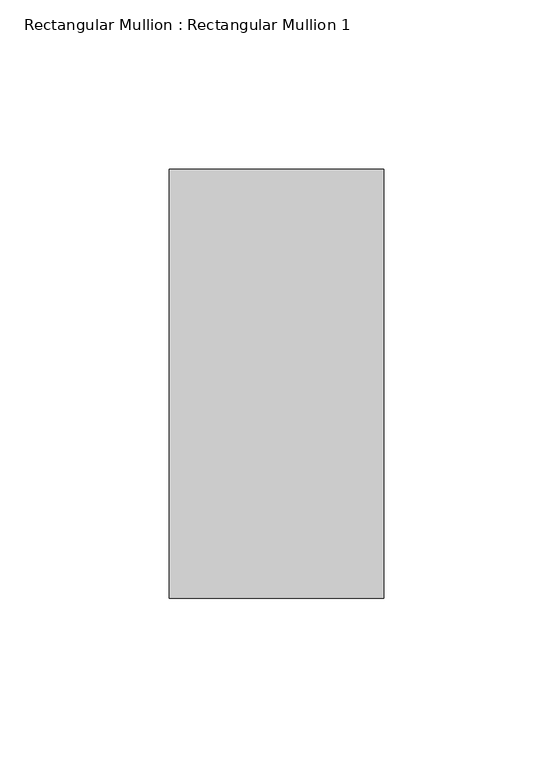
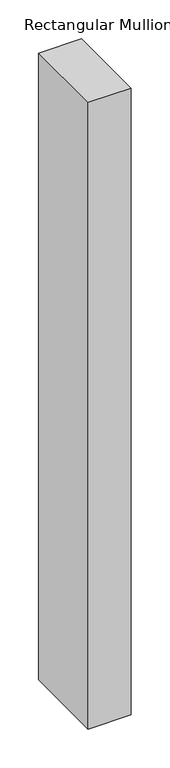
"""IFC4 building model written with IfcOpenShell, lengths in millimetres: member geometry, Rectangular Mullion : Rectangular Mullion 1."""

from ifc_helpers import new_model, si_unit, frame, origin, place, context, project, spatial, polyline, outline, extrude, source, transform, mapped, element, save


def rectangular_mullion_rectangular_mullion_1_d7ed0fb9(model_context):
    return source(origin(), model_context, "Body", "SweptSolid", [
        extrude(outline(polyline([(31.75, 63.5), (31.75, -63.5), (-31.75, -63.5), (-31.75, 63.5), (31.75, 63.5)])), frame((0.0, 0.0, -981.9821429), z_axis=(0.0, 0.0, 1.0), x_axis=(1.0, 0.0, 0.0)), (0.0, 0.0, 1.0), 981.9821429),
    ])


if __name__ == "__main__":
    model = new_model("IFC4")
    model_context = context("Model", 3, world=origin())
    ifc_project = project(units=[si_unit("LENGTHUNIT", "METRE", prefix="MILLI")], contexts=[model_context])
    site = spatial("IfcSite", under=ifc_project)
    building = spatial("IfcBuilding", under=site)
    placement = place(None, origin())
    rectangular_mullion_rectangular_mullion_1_shape = rectangular_mullion_rectangular_mullion_1_d7ed0fb9(model_context)
    element("IfcMember", 1, ObjectType="Rectangular Mullion : Rectangular Mullion 1", at=placement, inside=building, context=model_context, shape_type="MappedRepresentation", body=[
        mapped(rectangular_mullion_rectangular_mullion_1_shape, transform((0.0, 0.0, 0.0), x_axis=(1.0, 0.0, 0.0), y_axis=(0.0, 1.0, 0.0), z_axis=(0.0, 0.0, 1.0))),
    ])
    save(model, "model.ifc")
